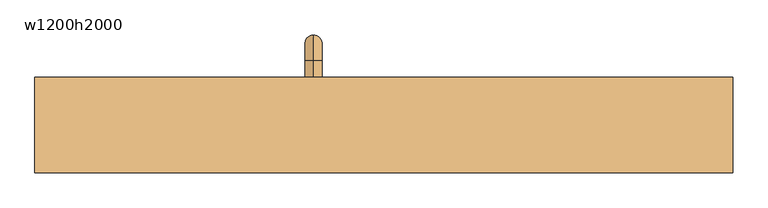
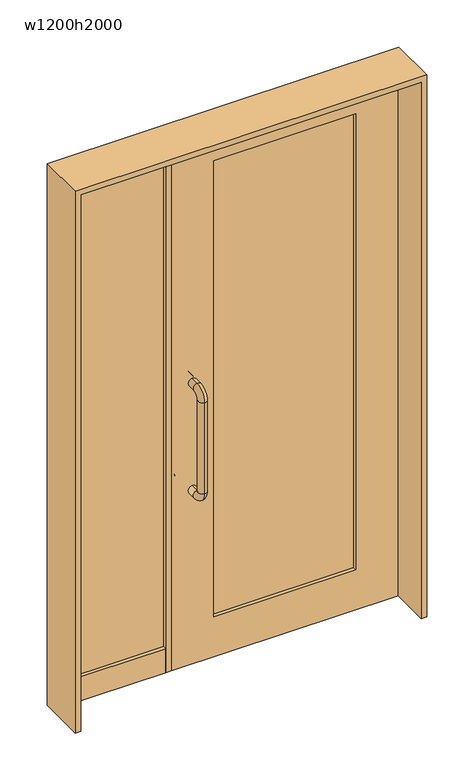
"""IFC4 building model written with IfcOpenShell, lengths in millimetres: door geometry, 片袖片開き_ガラス四方框 : w1200h2000."""

from ifc_helpers import new_model, si_unit, point, frame, origin, origin_with_axes, place, context, project, spatial, polyline, circle_curve, ellipse_curve, trimmed, outline, extrude, source, transform, mapped, element, save
from ifc_brep_helpers import cylinder_surface, revolved_surface, advanced_brep


def w1200h2000_b89c3308(model_context):
    return source(origin(), model_context, "Body", "SolidModel", [
        advanced_brep(
        [(-125.0, 130.0, 680.0), (-125.0, 115.0, 665.0), (-125.0, 115.0, 635.0), (-125.0, 160.0, 680.0), (-125.0, 160.0, 1020.0), (-125.0, 130.0, 1020.0), (-125.0, 115.0, 1035.0), (-125.0, 115.0, 1065.0), (-125.0, 25.0, 1065.0), (-125.0, 25.0, 1035.0), (-125.0, 10.0, 1020.0), (-125.0, -20.0, 1020.0), (-125.0, -20.0, 680.0), (-125.0, 10.0, 680.0), (-125.0, 25.0, 665.0), (-125.0, 25.0, 635.0)],
        [
            (0, 1, circle_curve(frame((-125.0, 115.0, 680.0), z_axis=(-1.0, 0.0, 0.0), x_axis=(0.0, 0.0, -1.0)), 15.0)),
            (1, 2, circle_curve(frame((-125.0, 115.0, 650.0), z_axis=(0.0, 1.0, 0.0), x_axis=(0.0, 0.0, 1.0)), 15.0)),
            (2, 3, circle_curve(frame((-125.0, 115.0, 680.0), z_axis=(1.0, 0.0, 0.0), x_axis=(0.0, 0.0, -1.0)), 45.0)),
            (3, 0, circle_curve(frame((-125.0, 145.0, 680.0), z_axis=(0.0, 0.0, -1.0), x_axis=(0.0, -1.0, 0.0)), 15.0)),
            (2, 1, circle_curve(frame((-125.0, 115.0, 650.0), z_axis=(0.0, 1.0, 0.0), x_axis=(0.0, 0.0, 1.0)), 15.0)),
            (0, 3, circle_curve(frame((-125.0, 145.0, 680.0), z_axis=(0.0, 0.0, -1.0), x_axis=(0.0, -1.0, 0.0)), 15.0)),
            (3, 4),
            (4, 5, circle_curve(frame((-125.0, 145.0, 1020.0), z_axis=(0.0, 0.0, -1.0), x_axis=(0.0, -1.0, 0.0)), 15.0)),
            (5, 0),
            (5, 4, circle_curve(frame((-125.0, 145.0, 1020.0), z_axis=(0.0, 0.0, -1.0), x_axis=(0.0, -1.0, 0.0)), 15.0)),
            (6, 5, circle_curve(frame((-125.0, 115.0, 1020.0), z_axis=(-1.0, 0.0, 0.0), x_axis=(0.0, 1.0, 0.0)), 15.0)),
            (4, 7, circle_curve(frame((-125.0, 115.0, 1020.0), z_axis=(1.0, 0.0, 0.0), x_axis=(0.0, 1.0, 0.0)), 45.0)),
            (7, 6, circle_curve(frame((-125.0, 115.0, 1050.0), z_axis=(0.0, 1.0, 0.0), x_axis=(0.0, 0.0, -1.0)), 15.0)),
            (6, 7, circle_curve(frame((-125.0, 115.0, 1050.0), z_axis=(0.0, 1.0, 0.0), x_axis=(0.0, 0.0, -1.0)), 15.0)),
            (7, 8),
            (8, 9, circle_curve(frame((-125.0, 25.0, 1050.0), z_axis=(0.0, 1.0, 0.0), x_axis=(0.0, 0.0, -1.0)), 15.0)),
            (9, 6),
            (9, 8, circle_curve(frame((-125.0, 25.0, 1050.0), z_axis=(0.0, 1.0, 0.0), x_axis=(0.0, 0.0, -1.0)), 15.0)),
            (10, 9, circle_curve(frame((-125.0, 25.0, 1020.0), z_axis=(-1.0, 0.0, 0.0), x_axis=(0.0, 0.0, 1.0)), 15.0)),
            (8, 11, circle_curve(frame((-125.0, 25.0, 1020.0), z_axis=(1.0, 0.0, 0.0), x_axis=(0.0, 0.0, 1.0)), 45.0)),
            (11, 10, circle_curve(frame((-125.0, -5.0, 1020.0), z_axis=(0.0, 0.0, 1.0), x_axis=(0.0, 1.0, 0.0)), 15.0)),
            (10, 11, circle_curve(frame((-125.0, -5.0, 1020.0), z_axis=(0.0, 0.0, 1.0), x_axis=(0.0, 1.0, 0.0)), 15.0)),
            (11, 12),
            (12, 13, circle_curve(frame((-125.0, -5.0, 680.0), z_axis=(0.0, 0.0, 1.0), x_axis=(0.0, 1.0, 0.0)), 15.0)),
            (13, 10),
            (13, 12, circle_curve(frame((-125.0, -5.0, 680.0), z_axis=(0.0, 0.0, 1.0), x_axis=(0.0, 1.0, 0.0)), 15.0)),
            (14, 13, circle_curve(frame((-125.0, 25.0, 680.0), z_axis=(-1.0, 0.0, 0.0), x_axis=(0.0, -1.0, 0.0)), 15.0)),
            (12, 15, circle_curve(frame((-125.0, 25.0, 680.0), z_axis=(1.0, 0.0, 0.0), x_axis=(0.0, -1.0, 0.0)), 45.0)),
            (15, 14, circle_curve(frame((-125.0, 25.0, 650.0), z_axis=(0.0, -1.0, 0.0), x_axis=(0.0, 0.0, 1.0)), 15.0)),
            (14, 15, circle_curve(frame((-125.0, 25.0, 650.0), z_axis=(0.0, -1.0, 0.0), x_axis=(0.0, 0.0, 1.0)), 15.0)),
            (15, 2),
            (1, 14),
        ],
        [
            revolved_surface(trimmed(ellipse_curve(frame((-125.0, 115.0, 650.0), z_axis=(0.0, -1.0, 0.0), x_axis=(0.0, 0.0, 1.0)), 15.0, 15.0), [point((-125.0, 115.0, 635.0))], [point((-125.0, 115.0, 665.0))], True, "CARTESIAN"), (-125.0, 115.0, 680.0), (1.0, 0.0, 0.0)),
            revolved_surface(trimmed(ellipse_curve(frame((-125.0, 115.0, 650.0), z_axis=(0.0, -1.0, 0.0), x_axis=(0.0, 0.0, 1.0)), 15.0, 15.0), [point((-125.0, 115.0, 665.0))], [point((-125.0, 115.0, 635.0))], True, "CARTESIAN"), (-125.0, 115.0, 680.0), (1.0, 0.0, 0.0)),
            cylinder_surface(frame((-125.0, 145.0, 680.0), z_axis=(0.0, 0.0, -1.0), x_axis=(0.0, -1.0, 0.0)), 15.0),
            revolved_surface(trimmed(ellipse_curve(frame((-125.0, 145.0, 1020.0), z_axis=(0.0, 0.0, -1.0), x_axis=(0.0, -1.0, 0.0)), 15.0, 15.0), [point((-125.0, 160.0, 1020.0))], [point((-125.0, 130.0, 1020.0))], True, "CARTESIAN"), (-125.0, 115.0, 1020.0), (1.0, 0.0, 0.0)),
            revolved_surface(trimmed(ellipse_curve(frame((-125.0, 145.0, 1020.0), z_axis=(0.0, 0.0, -1.0), x_axis=(0.0, -1.0, 0.0)), 15.0, 15.0), [point((-125.0, 130.0, 1020.0))], [point((-125.0, 160.0, 1020.0))], True, "CARTESIAN"), (-125.0, 115.0, 1020.0), (1.0, 0.0, 0.0)),
            cylinder_surface(frame((-125.0, 115.0, 1050.0), z_axis=(0.0, 1.0, 0.0), x_axis=(0.0, 0.0, -1.0)), 15.0),
            revolved_surface(trimmed(ellipse_curve(frame((-125.0, 25.0, 1050.0), z_axis=(0.0, 1.0, 0.0), x_axis=(0.0, 0.0, -1.0)), 15.0, 15.0), [point((-125.0, 25.0, 1065.0))], [point((-125.0, 25.0, 1035.0))], True, "CARTESIAN"), (-125.0, 25.0, 1020.0), (1.0, 0.0, 0.0)),
            revolved_surface(trimmed(ellipse_curve(frame((-125.0, 25.0, 1050.0), z_axis=(0.0, 1.0, 0.0), x_axis=(0.0, 0.0, -1.0)), 15.0, 15.0), [point((-125.0, 25.0, 1035.0))], [point((-125.0, 25.0, 1065.0))], True, "CARTESIAN"), (-125.0, 25.0, 1020.0), (1.0, 0.0, 0.0)),
            cylinder_surface(frame((-125.0, -5.0, 1020.0), z_axis=(0.0, 0.0, 1.0), x_axis=(0.0, 1.0, 0.0)), 15.0),
            revolved_surface(trimmed(ellipse_curve(frame((-125.0, -5.0, 680.0), z_axis=(0.0, 0.0, 1.0), x_axis=(0.0, 1.0, 0.0)), 15.0, 15.0), [point((-125.0, -20.0, 680.0))], [point((-125.0, 10.0, 680.0))], True, "CARTESIAN"), (-125.0, 25.0, 680.0), (1.0, 0.0, 0.0)),
            revolved_surface(trimmed(ellipse_curve(frame((-125.0, -5.0, 680.0), z_axis=(0.0, 0.0, 1.0), x_axis=(0.0, 1.0, 0.0)), 15.0, 15.0), [point((-125.0, 10.0, 680.0))], [point((-125.0, -20.0, 680.0))], True, "CARTESIAN"), (-125.0, 25.0, 680.0), (1.0, 0.0, 0.0)),
            cylinder_surface(frame((-125.0, 25.0, 650.0), z_axis=(0.0, -1.0, 0.0), x_axis=(0.0, 0.0, 1.0)), 15.0),
        ],
        [
            (0, [[1, 2, 3, 4]]),
            (1, [[-3, 5, -1, 6]]),
            (2, [[-4, 7, 8, 9]]),
            (2, [[-6, -9, 10, -7]]),
            (3, [[11, -8, 12, 13]]),
            (4, [[-12, -10, -11, 14]]),
            (5, [[-13, 15, 16, 17]]),
            (5, [[-14, -17, 18, -15]]),
            (6, [[19, -16, 20, 21]]),
            (7, [[-20, -18, -19, 22]]),
            (8, [[-21, 23, 24, 25]]),
            (8, [[-22, -25, 26, -23]]),
            (9, [[27, -24, 28, 29]]),
            (10, [[-28, -26, -27, 30]]),
            (11, [[-29, 31, -2, 32]]),
            (11, [[-30, -32, -5, -31]]),
        ],
    ),
        extrude(outline(polyline([(-220.0, 55.0), (-600.0, 55.0), (-600.0, 85.0), (-220.0, 85.0), (-220.0, 55.0)])), origin_with_axes(), (0.0, 0.0, 1.0), 90.0),
        extrude(outline(polyline([(-220.0, 67.5), (-600.0, 67.5), (-600.0, 72.5), (-220.0, 72.5), (-220.0, 67.5)])), frame((0.0, 0.0, 90.0), z_axis=(0.0, 0.0, 1.0), x_axis=(1.0, 0.0, 0.0)), (0.0, 0.0, 1.0), 1910.0),
        extrude(outline(polyline([(450.0, 67.5), (-50.0, 67.5), (-50.0, 72.5), (450.0, 72.5), (450.0, 67.5)])), frame((0.0, 0.0, 150.0), z_axis=(0.0, 0.0, 1.0), x_axis=(1.0, 0.0, 0.0)), (0.0, 0.0, 1.0), 1700.0),
        extrude(outline(polyline([(-200.0, 55.0), (-220.0, 55.0), (-220.0, 85.0), (-200.0, 85.0), (-200.0, 55.0)])), origin_with_axes(), (0.0, 0.0, 1.0), 2000.0),
        extrude(outline(polyline([(2020.0, -620.0), (0.0, -620.0), (0.0, -600.0), (2000.0, -600.0), (2000.0, 600.0), (0.0, 600.0), (0.0, 620.0), (2020.0, 620.0), (2020.0, -620.0)])), frame((0.0, -85.0, 0.0), z_axis=(0.0, 1.0, 0.0), x_axis=(0.0, 0.0, 1.0)), (0.0, 0.0, 1.0), 170.0),
        extrude(outline(polyline([(2000.0, 600.0), (2000.0, -200.0), (0.0, -200.0), (0.0, 600.0), (2000.0, 600.0)]), holes=[polyline([(1850.0, 450.0), (150.0, 450.0), (150.0, -50.0), (1850.0, -50.0), (1850.0, 450.0)])]), frame((0.0, 55.0, 0.0), z_axis=(0.0, 1.0, 0.0), x_axis=(0.0, 0.0, 1.0)), (0.0, 0.0, 1.0), 30.0),
    ])


if __name__ == "__main__":
    model = new_model("IFC4")
    model_context = context("Model", 3, world=origin())
    ifc_project = project(units=[si_unit("LENGTHUNIT", "METRE", prefix="MILLI")], contexts=[model_context])
    site = spatial("IfcSite", under=ifc_project)
    building = spatial("IfcBuilding", under=site)
    placement = place(None, origin())
    w1200h2000_shape = w1200h2000_b89c3308(model_context)
    element("IfcDoor", 1, ObjectType="片袖片開き_ガラス四方框 : w1200h2000", at=placement, inside=building, context=model_context, shape_type="MappedRepresentation", body=[
        mapped(w1200h2000_shape, transform((0.0, 0.0, 0.0), x_axis=(1.0, 0.0, 0.0), y_axis=(0.0, 1.0, 0.0), z_axis=(0.0, 0.0, 1.0))),
    ])
    save(model, "model.ifc")
